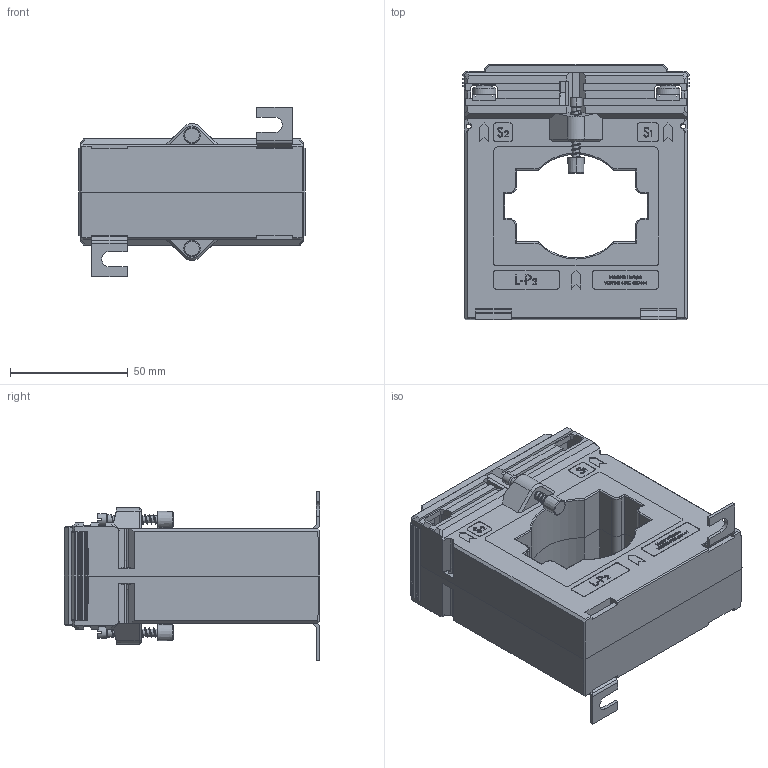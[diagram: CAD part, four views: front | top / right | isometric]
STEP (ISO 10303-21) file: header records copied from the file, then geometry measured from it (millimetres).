
FILE_DESCRIPTION (( 'STEP AP214' ), '1' );
FILE_NAME ('EASK61_4_kpl.STEP', '2011-12-05T08:00:28', ( ' ' ), ( '' ), 'SwSTEP 2.0', 'SolidWorks 2010', '' );
FILE_SCHEMA (( 'AUTOMOTIVE_DESIGN' ));
Length unit declared in the file: millimetre
Products named in the file (10): Isolierschutzkappe; Linsenschraube DIN 7985 4.8 VZ M 5 x 10; MBS_WN-003_04_Klemme_WN-003_02; ASK61.4-14_Plombierplatte; ASK61_4_11_Gehäuseoberteil; EASK61_4_kpl; Plastite_Schraube_30_mit-Gewinde; Verschlussklappe_38mm; Fusswinkel_1,5; ASK61_4_11
Assembly tree (17 placements, depth 2):
  EASK61_4_kpl
    Linsenschraube DIN 7985 4.8 VZ M 5 x 10  x4
    ASK61_4_11_Gehäuseoberteil
    Verschlussklappe_38mm  x2
    Plastite_Schraube_30_mit-Gewinde  x2
    ASK61.4-14_Plombierplatte
    Fusswinkel_1,5  x2
    MBS_WN-003_04_Klemme_WN-003_02  x2
    Isolierschutzkappe  x2
    ASK61_4_11
Bounding box: 96 x 108.5 x 72 mm (x, y, z)
Volume: 316244.5 mm3; surface area: 79686.9 mm2
Topology: 17 solids, 17 shells, 1936 faces, 5048 edges, 3268 vertices
Faces by surface type: plane 1292, bspline 320, cylinder 210, cone 78, torus 20, sphere 16
Entity records: 71070 total; most frequent: CARTESIAN_POINT 31749, ORIENTED_EDGE 8788, DIRECTION 6607, EDGE_CURVE 4394, VECTOR 3305, LINE 3305, VERTEX_POINT 2878, EDGE_LOOP 1808
